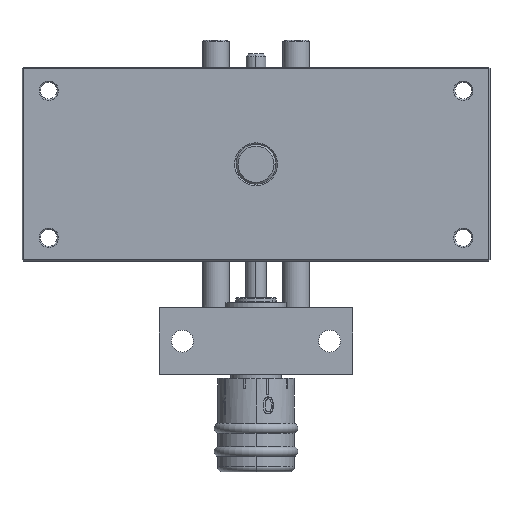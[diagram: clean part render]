
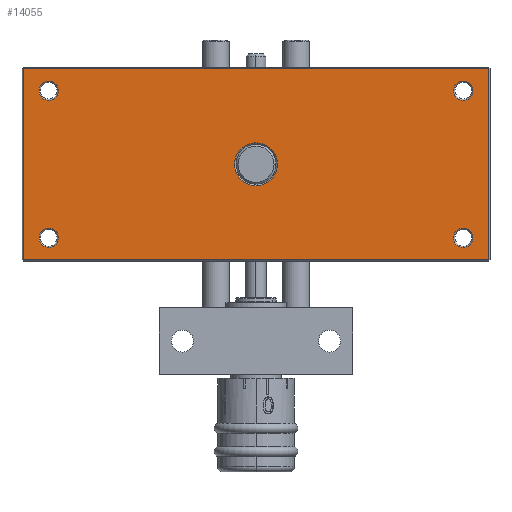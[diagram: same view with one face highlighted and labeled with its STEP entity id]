
A CAD part, front view. The second image highlights one B-rep face of the part: STEP entity #14055.
In plain terms, the highlighted planar face has unit normal (0, -1, 0).
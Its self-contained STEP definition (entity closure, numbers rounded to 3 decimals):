
#141 = CARTESIAN_POINT ( 'NONE',  ( -31., -4., 11. ) ) ;
#357 = EDGE_CURVE ( 'NONE', #14588, #14526, #6860, .T. ) ;
#360 = CIRCLE ( 'NONE', #5111, 3.2 ) ;
#892 = EDGE_CURVE ( 'NONE', #14526, #14588, #5938, .T. ) ;
#1364 = CARTESIAN_POINT ( 'NONE',  ( -31., -4., -11. ) ) ;
#1421 = DIRECTION ( 'NONE',  ( 0., 1., 0. ) ) ;
#1440 = DIRECTION ( 'NONE',  ( -1., 0., 0. ) ) ;
#1589 = DIRECTION ( 'NONE',  ( -1., 0., 0. ) ) ;
#1630 = EDGE_LOOP ( 'NONE', ( #11333, #11400 ) ) ;
#1634 = EDGE_LOOP ( 'NONE', ( #11133, #11222 ) ) ;
#1677 = EDGE_LOOP ( 'NONE', ( #10681, #10737 ) ) ;
#1690 = DIRECTION ( 'NONE',  ( 0., 1., 0. ) ) ;
#1798 = CIRCLE ( 'NONE', #15743, 1.45 ) ;
#1804 = EDGE_LOOP ( 'NONE', ( #11433, #11515, #11559, #11631 ) ) ;
#1813 = EDGE_CURVE ( 'NONE', #14421, #15693, #4737, .T. ) ;
#2027 = EDGE_LOOP ( 'NONE', ( #10443, #10546 ) ) ;
#2119 = EDGE_LOOP ( 'NONE', ( #10939, #11014 ) ) ;
#2200 = AXIS2_PLACEMENT_3D ( 'NONE', #1364, #1421, #1440 ) ;
#2293 = EDGE_CURVE ( 'NONE', #8979, #13002, #4256, .T. ) ;
#2876 = CIRCLE ( 'NONE', #6315, 1.45 ) ;
#3340 = CIRCLE ( 'NONE', #9018, 1.45 ) ;
#3920 = AXIS2_PLACEMENT_3D ( 'NONE', #5761, #5719, #5714 ) ;
#4086 = VECTOR ( 'NONE', #9441, 1000. ) ;
#4109 = CARTESIAN_POINT ( 'NONE',  ( 35., -4., 14.5 ) ) ;
#4256 = LINE ( 'NONE', #9453, #4086 ) ;
#4303 = CARTESIAN_POINT ( 'NONE',  ( 31., -4., -11. ) ) ;
#4737 = CIRCLE ( 'NONE', #7456, 1.45 ) ;
#4903 = DIRECTION ( 'NONE',  ( -1., 0., 0. ) ) ;
#4919 = DIRECTION ( 'NONE',  ( 0., 1., 0. ) ) ;
#4936 = CARTESIAN_POINT ( 'NONE',  ( -31., -4., -11. ) ) ;
#5111 = AXIS2_PLACEMENT_3D ( 'NONE', #6196, #5922, #5854 ) ;
#5191 = EDGE_CURVE ( 'NONE', #11314, #9140, #360, .T. ) ;
#5204 = AXIS2_PLACEMENT_3D ( 'NONE', #11846, #11810, #11806 ) ;
#5529 = DIRECTION ( 'NONE',  ( -1., 0., 0. ) ) ;
#5714 = DIRECTION ( 'NONE',  ( -1., 0., 0. ) ) ;
#5719 = DIRECTION ( 'NONE',  ( 0., 1., 0. ) ) ;
#5722 = DIRECTION ( 'NONE',  ( -1., 0., 0. ) ) ;
#5761 = CARTESIAN_POINT ( 'NONE',  ( 31., -4., 11. ) ) ;
#5854 = DIRECTION ( 'NONE',  ( -1., 0., 0. ) ) ;
#5879 = DIRECTION ( 'NONE',  ( -1., 0., 0. ) ) ;
#5922 = DIRECTION ( 'NONE',  ( 0., 1., 0. ) ) ;
#5938 = CIRCLE ( 'NONE', #2200, 1.45 ) ;
#6196 = CARTESIAN_POINT ( 'NONE',  ( 0., -4., 0. ) ) ;
#6315 = AXIS2_PLACEMENT_3D ( 'NONE', #141, #9956, #1589 ) ;
#6505 = EDGE_CURVE ( 'NONE', #7267, #8979, #14073, .T. ) ;
#6562 = CARTESIAN_POINT ( 'NONE',  ( 31., -4., -11. ) ) ;
#6860 = CIRCLE ( 'NONE', #16364, 1.45 ) ;
#6964 = CARTESIAN_POINT ( 'NONE',  ( -31., -4., 11. ) ) ;
#7115 = EDGE_CURVE ( 'NONE', #11362, #7267, #12565, .T. ) ;
#7267 = VERTEX_POINT ( 'NONE', #12111 ) ;
#7338 = EDGE_CURVE ( 'NONE', #9140, #11314, #12352, .T. ) ;
#7456 = AXIS2_PLACEMENT_3D ( 'NONE', #12228, #12203, #12180 ) ;
#7602 = CARTESIAN_POINT ( 'NONE',  ( 32.45, -4., 11. ) ) ;
#7698 = DIRECTION ( 'NONE',  ( 1., 0., 0. ) ) ;
#7962 = DIRECTION ( 'NONE',  ( -1., 0., 0. ) ) ;
#7995 = EDGE_CURVE ( 'NONE', #15693, #14421, #11509, .T. ) ;
#8550 = FACE_OUTER_BOUND ( 'NONE', #1804, .T. ) ;
#8567 = FACE_BOUND ( 'NONE', #1634, .T. ) ;
#8580 = FACE_BOUND ( 'NONE', #1630, .T. ) ;
#8616 = FACE_BOUND ( 'NONE', #1677, .T. ) ;
#8727 = FACE_BOUND ( 'NONE', #2027, .T. ) ;
#8977 = FACE_BOUND ( 'NONE', #2119, .T. ) ;
#8979 = VERTEX_POINT ( 'NONE', #16496 ) ;
#9018 = AXIS2_PLACEMENT_3D ( 'NONE', #4303, #13828, #5722 ) ;
#9136 = EDGE_CURVE ( 'NONE', #13002, #11362, #9216, .T. ) ;
#9140 = VERTEX_POINT ( 'NONE', #11439 ) ;
#9216 = LINE ( 'NONE', #11512, #9250 ) ;
#9250 = VECTOR ( 'NONE', #11524, 1000. ) ;
#9441 = DIRECTION ( 'NONE',  ( 0., 0., 1. ) ) ;
#9453 = CARTESIAN_POINT ( 'NONE',  ( 34.8, -4., 14.5 ) ) ;
#9470 = CARTESIAN_POINT ( 'NONE',  ( -34.8, -4., 14.3 ) ) ;
#9624 = CARTESIAN_POINT ( 'NONE',  ( 35., -4., -14.3 ) ) ;
#9629 = CARTESIAN_POINT ( 'NONE',  ( 29.55, -4., 11. ) ) ;
#9956 = DIRECTION ( 'NONE',  ( 0., 1., 0. ) ) ;
#10443 = ORIENTED_EDGE ( 'NONE', *, *, #5191, .T. ) ;
#10546 = ORIENTED_EDGE ( 'NONE', *, *, #7338, .T. ) ;
#10583 = CARTESIAN_POINT ( 'NONE',  ( 29.55, -4., -11. ) ) ;
#10681 = ORIENTED_EDGE ( 'NONE', *, *, #12920, .T. ) ;
#10737 = ORIENTED_EDGE ( 'NONE', *, *, #15362, .T. ) ;
#10939 = ORIENTED_EDGE ( 'NONE', *, *, #892, .T. ) ;
#11014 = ORIENTED_EDGE ( 'NONE', *, *, #357, .T. ) ;
#11133 = ORIENTED_EDGE ( 'NONE', *, *, #1813, .T. ) ;
#11222 = ORIENTED_EDGE ( 'NONE', *, *, #7995, .T. ) ;
#11314 = VERTEX_POINT ( 'NONE', #13328 ) ;
#11333 = ORIENTED_EDGE ( 'NONE', *, *, #17357, .T. ) ;
#11362 = VERTEX_POINT ( 'NONE', #9470 ) ;
#11400 = ORIENTED_EDGE ( 'NONE', *, *, #16143, .T. ) ;
#11433 = ORIENTED_EDGE ( 'NONE', *, *, #7115, .T. ) ;
#11439 = CARTESIAN_POINT ( 'NONE',  ( -3.2, -4., 0. ) ) ;
#11509 = CIRCLE ( 'NONE', #3920, 1.45 ) ;
#11512 = CARTESIAN_POINT ( 'NONE',  ( 35., -4., 14.3 ) ) ;
#11515 = ORIENTED_EDGE ( 'NONE', *, *, #6505, .T. ) ;
#11524 = DIRECTION ( 'NONE',  ( -1., 0., 0. ) ) ;
#11559 = ORIENTED_EDGE ( 'NONE', *, *, #2293, .T. ) ;
#11631 = ORIENTED_EDGE ( 'NONE', *, *, #9136, .T. ) ;
#11792 = CARTESIAN_POINT ( 'NONE',  ( -32.45, -4., 11. ) ) ;
#11806 = DIRECTION ( 'NONE',  ( -1., 0., 0. ) ) ;
#11810 = DIRECTION ( 'NONE',  ( 0., 1., 0. ) ) ;
#11846 = CARTESIAN_POINT ( 'NONE',  ( 0., -4., 0. ) ) ;
#11895 = CARTESIAN_POINT ( 'NONE',  ( -29.55, -4., 11. ) ) ;
#11898 = CARTESIAN_POINT ( 'NONE',  ( 32.45, -4., -11. ) ) ;
#12036 = DIRECTION ( 'NONE',  ( 0., 1., 0. ) ) ;
#12111 = CARTESIAN_POINT ( 'NONE',  ( -34.8, -4., -14.3 ) ) ;
#12180 = DIRECTION ( 'NONE',  ( -1., 0., 0. ) ) ;
#12203 = DIRECTION ( 'NONE',  ( 0., 1., 0. ) ) ;
#12228 = CARTESIAN_POINT ( 'NONE',  ( 31., -4., 11. ) ) ;
#12352 = CIRCLE ( 'NONE', #5204, 3.2 ) ;
#12565 = LINE ( 'NONE', #12655, #12633 ) ;
#12593 = DIRECTION ( 'NONE',  ( 0., 0., -1. ) ) ;
#12633 = VECTOR ( 'NONE', #12593, 1000. ) ;
#12655 = CARTESIAN_POINT ( 'NONE',  ( -34.8, -4., 14.5 ) ) ;
#12771 = AXIS2_PLACEMENT_3D ( 'NONE', #6964, #1690, #5879 ) ;
#12780 = CARTESIAN_POINT ( 'NONE',  ( -32.45, -4., -11. ) ) ;
#12920 = EDGE_CURVE ( 'NONE', #14471, #14914, #14354, .T. ) ;
#13002 = VERTEX_POINT ( 'NONE', #13815 ) ;
#13236 = CARTESIAN_POINT ( 'NONE',  ( -29.55, -4., -11. ) ) ;
#13318 = PLANE ( 'NONE',  #16270 ) ;
#13328 = CARTESIAN_POINT ( 'NONE',  ( 3.2, -4., 0. ) ) ;
#13815 = CARTESIAN_POINT ( 'NONE',  ( 34.8, -4., 14.3 ) ) ;
#13828 = DIRECTION ( 'NONE',  ( 0., 1., 0. ) ) ;
#14055 = ADVANCED_FACE ( 'NONE', ( #8727, #8616, #8977, #8567, #8580, #8550 ), #13318, .F. ) ;
#14073 = LINE ( 'NONE', #9624, #14083 ) ;
#14083 = VECTOR ( 'NONE', #7698, 1000. ) ;
#14354 = CIRCLE ( 'NONE', #12771, 1.45 ) ;
#14421 = VERTEX_POINT ( 'NONE', #7602 ) ;
#14471 = VERTEX_POINT ( 'NONE', #11895 ) ;
#14526 = VERTEX_POINT ( 'NONE', #13236 ) ;
#14588 = VERTEX_POINT ( 'NONE', #12780 ) ;
#14914 = VERTEX_POINT ( 'NONE', #11792 ) ;
#15362 = EDGE_CURVE ( 'NONE', #14914, #14471, #2876, .T. ) ;
#15693 = VERTEX_POINT ( 'NONE', #9629 ) ;
#15743 = AXIS2_PLACEMENT_3D ( 'NONE', #6562, #15791, #7962 ) ;
#15791 = DIRECTION ( 'NONE',  ( 0., 1., 0. ) ) ;
#15973 = VERTEX_POINT ( 'NONE', #11898 ) ;
#16023 = VERTEX_POINT ( 'NONE', #10583 ) ;
#16143 = EDGE_CURVE ( 'NONE', #16023, #15973, #1798, .T. ) ;
#16270 = AXIS2_PLACEMENT_3D ( 'NONE', #4109, #12036, #5529 ) ;
#16364 = AXIS2_PLACEMENT_3D ( 'NONE', #4936, #4919, #4903 ) ;
#16496 = CARTESIAN_POINT ( 'NONE',  ( 34.8, -4., -14.3 ) ) ;
#17357 = EDGE_CURVE ( 'NONE', #15973, #16023, #3340, .T. ) ;
